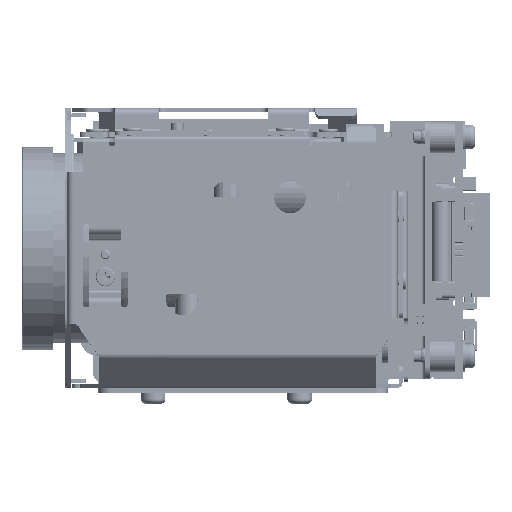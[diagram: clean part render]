
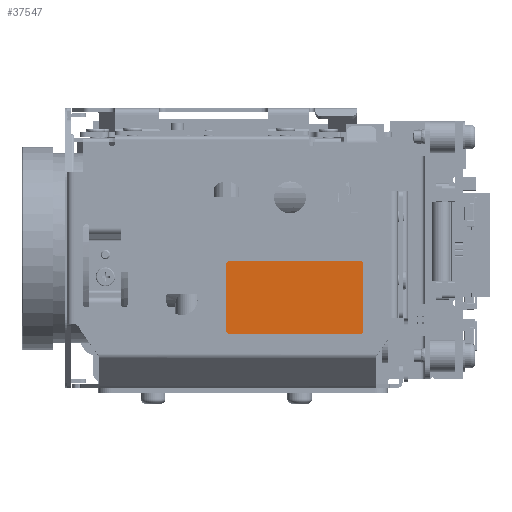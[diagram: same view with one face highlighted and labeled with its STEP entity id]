
A CAD part, left-side view. The second image highlights one B-rep face of the part: STEP entity #37547.
In plain terms, the highlighted planar face has unit normal (-1, 0, 0) as drawn and (1, 0, 0) by its records, which use the part's own axes.
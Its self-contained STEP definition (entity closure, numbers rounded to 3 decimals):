
#37547 = ADVANCED_FACE( '', ( #80522 ), #80523, .T. );
#80522 = FACE_OUTER_BOUND( '', #135511, .T. );
#80523 = PLANE( '', #135512 );
#135511 = EDGE_LOOP( '', ( #202643, #202644, #202645, #202646, #202647, #202648, #202649, #202650 ) );
#135512 = AXIS2_PLACEMENT_3D( '', #202651, #202652, #202653 );
#202643 = ORIENTED_EDGE( '', *, *, #343253, .T. );
#202644 = ORIENTED_EDGE( '', *, *, #343254, .F. );
#202645 = ORIENTED_EDGE( '', *, *, #343255, .T. );
#202646 = ORIENTED_EDGE( '', *, *, #343256, .F. );
#202647 = ORIENTED_EDGE( '', *, *, #343257, .T. );
#202648 = ORIENTED_EDGE( '', *, *, #341483, .F. );
#202649 = ORIENTED_EDGE( '', *, *, #343258, .T. );
#202650 = ORIENTED_EDGE( '', *, *, #343259, .F. );
#202651 = CARTESIAN_POINT( '', ( 21.2, 0., 0. ) );
#202652 = DIRECTION( '', ( 1., 0., 0. ) );
#202653 = DIRECTION( '', ( 0., 1., 0. ) );
#341483 = EDGE_CURVE( '', #406784, #406782, #406786, .T. );
#343253 = EDGE_CURVE( '', #409990, #409991, #409992, .T. );
#343254 = EDGE_CURVE( '', #409993, #409991, #409994, .T. );
#343255 = EDGE_CURVE( '', #409993, #409995, #409996, .T. );
#343256 = EDGE_CURVE( '', #409997, #409995, #409998, .T. );
#343257 = EDGE_CURVE( '', #409997, #406782, #409999, .T. );
#343258 = EDGE_CURVE( '', #406784, #410000, #410001, .T. );
#343259 = EDGE_CURVE( '', #409990, #410000, #410002, .T. );
#406782 = VERTEX_POINT( '', #507551 );
#406784 = VERTEX_POINT( '', #507554 );
#406786 = CIRCLE( '', #507557, 0.5 );
#409990 = VERTEX_POINT( '', #512686 );
#409991 = VERTEX_POINT( '', #512687 );
#409992 = LINE( '', #512688, #512689 );
#409993 = VERTEX_POINT( '', #512690 );
#409994 = CIRCLE( '', #512691, 0.5 );
#409995 = VERTEX_POINT( '', #512692 );
#409996 = LINE( '', #512693, #512694 );
#409997 = VERTEX_POINT( '', #512695 );
#409998 = CIRCLE( '', #512696, 0.5 );
#409999 = LINE( '', #512697, #512698 );
#410000 = VERTEX_POINT( '', #512699 );
#410001 = LINE( '', #512700, #512701 );
#410002 = CIRCLE( '', #512702, 0.5 );
#507551 = CARTESIAN_POINT( '', ( 21.2, -13.5, -42. ) );
#507554 = CARTESIAN_POINT( '', ( 21.2, -13., -42.5 ) );
#507557 = AXIS2_PLACEMENT_3D( '', #668555, #668556, #668557 );
#512686 = CARTESIAN_POINT( '', ( 21.2, -2., -42. ) );
#512687 = CARTESIAN_POINT( '', ( 21.2, -2., -21.5 ) );
#512688 = CARTESIAN_POINT( '', ( 21.2, -2., -42. ) );
#512689 = VECTOR( '', #670276, 1000. );
#512690 = CARTESIAN_POINT( '', ( 21.2, -2.5, -21. ) );
#512691 = AXIS2_PLACEMENT_3D( '', #670277, #670278, #670279 );
#512692 = CARTESIAN_POINT( '', ( 21.2, -13., -21. ) );
#512693 = CARTESIAN_POINT( '', ( 21.2, -2.5, -21. ) );
#512694 = VECTOR( '', #670280, 1000. );
#512695 = CARTESIAN_POINT( '', ( 21.2, -13.5, -21.5 ) );
#512696 = AXIS2_PLACEMENT_3D( '', #670281, #670282, #670283 );
#512697 = CARTESIAN_POINT( '', ( 21.2, -13.5, -21.5 ) );
#512698 = VECTOR( '', #670284, 1000. );
#512699 = CARTESIAN_POINT( '', ( 21.2, -2.5, -42.5 ) );
#512700 = CARTESIAN_POINT( '', ( 21.2, -13., -42.5 ) );
#512701 = VECTOR( '', #670285, 1000. );
#512702 = AXIS2_PLACEMENT_3D( '', #670286, #670287, #670288 );
#668555 = CARTESIAN_POINT( '', ( 21.2, -13., -42. ) );
#668556 = DIRECTION( '', ( -1., 0., 0. ) );
#668557 = DIRECTION( '', ( 0., 0., -1. ) );
#670276 = DIRECTION( '', ( 0., 0., 1. ) );
#670277 = CARTESIAN_POINT( '', ( 21.2, -2.5, -21.5 ) );
#670278 = DIRECTION( '', ( -1., 0., 0. ) );
#670279 = DIRECTION( '', ( 0., 0., 1. ) );
#670280 = DIRECTION( '', ( 0., -1., 0. ) );
#670281 = CARTESIAN_POINT( '', ( 21.2, -13., -21.5 ) );
#670282 = DIRECTION( '', ( -1., 0., 0. ) );
#670283 = DIRECTION( '', ( 0., -1., 0. ) );
#670284 = DIRECTION( '', ( 0., 0., -1. ) );
#670285 = DIRECTION( '', ( 0., 1., 0. ) );
#670286 = CARTESIAN_POINT( '', ( 21.2, -2.5, -42. ) );
#670287 = DIRECTION( '', ( -1., 0., 0. ) );
#670288 = DIRECTION( '', ( 0., 1., 0. ) );
